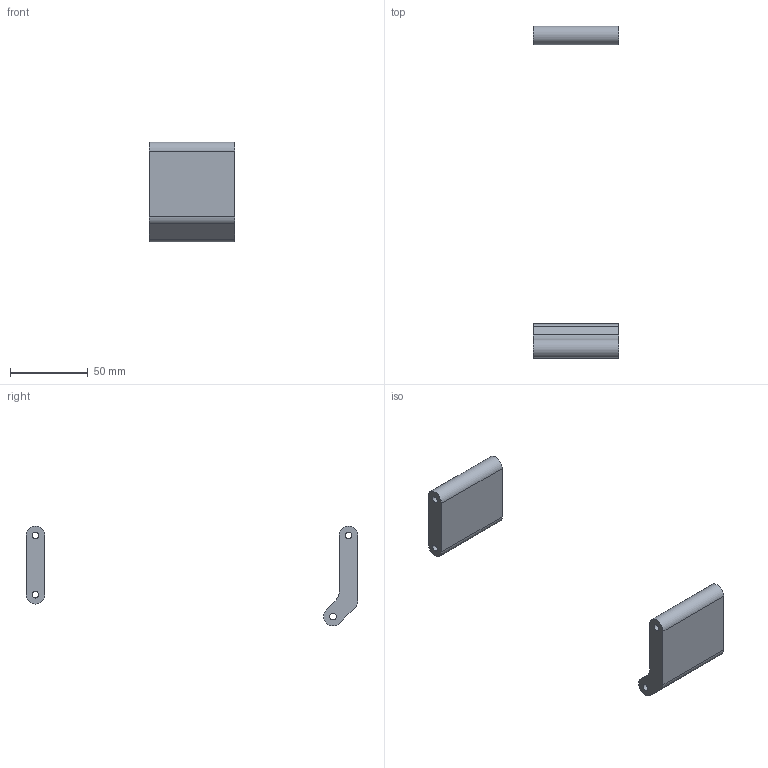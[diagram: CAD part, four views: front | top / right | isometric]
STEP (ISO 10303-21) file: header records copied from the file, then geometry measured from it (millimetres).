
FILE_DESCRIPTION(/* description */ ('CAx-IF Rec.Pracs.---Representation and Presentation of Product Manufacturing Information (PMI)---4.0---2014-10-13','CAx-IF Rec.Pracs.---3D Tessellated Geometry---0.4---2014-09-14','2;1'),/* implementation_level */ '2;1');
FILE_NAME(/* name */ 'qc1_t4_leg_tool',/* time_stamp */ '2026-07-24T03:35:40+03:00',/* author */ (''),/* organization */ (''),/* preprocessor_version */ 'ST-DEVELOPER v19.4',/* originating_system */ 'SIEMENS PLM Software NX2306.1700',/* authorisation */ $);
FILE_SCHEMA (('AP242_MANAGED_MODEL_BASED_3D_ENGINEERING_MIM_LF { 1 0 10303 442 3 1 4 }'));
Length unit declared in the file: millimetre
Products named in the file (1): qc1_t4_leg_tool
Bounding box: 55.1 x 212.85 x 63.98 mm (x, y, z)
Volume: 71732.5 mm3; surface area: 20002.8 mm2
Topology: 2 solids, 2 shells, 20 faces, 52 edges, 36 vertices
Faces by surface type: cylinder 10, plane 10
Full cylindrical faces by diameter (mm): 4.2 x4
Entity records: 615 total; most frequent: DIRECTION 106, CARTESIAN_POINT 97, ORIENTED_EDGE 88, EDGE_CURVE 44, AXIS2_PLACEMENT_3D 41, VERTEX_POINT 32, EDGE_LOOP 32, FACE_BOUND 32
